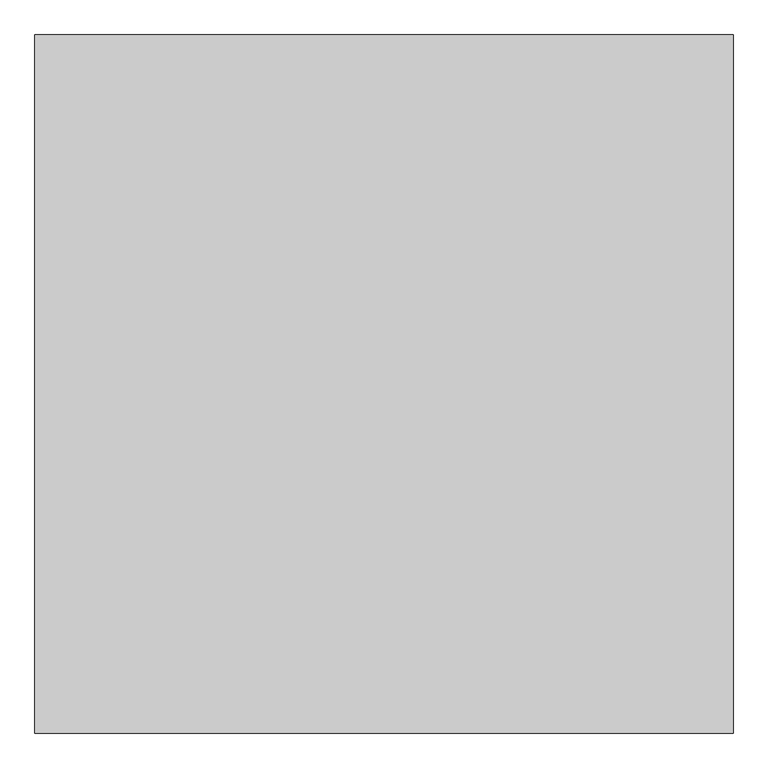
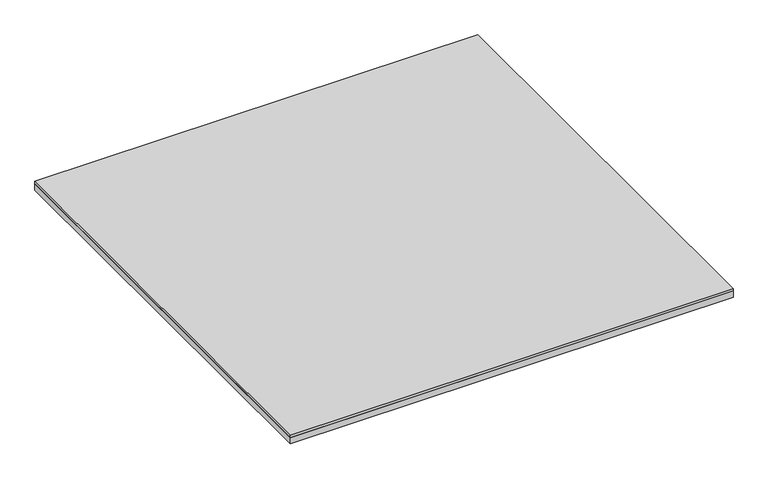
"""IFC4 building model written with IfcOpenShell, lengths in millimetres: proxy geometry, FOUNDATION^PO2_GLASS TACK-PARTS SOLID."""

from ifc_helpers import new_model, si_unit, frame, origin, origin_with_axes, place, context, project, spatial, polyline, outline, extrude, source, transform, mapped, element, save


def generic_models_c7d0343b(model_context):
    return source(origin(), model_context, "Body", "SweptSolid", [
        extrude(outline(polyline([(0.0, 1243.0125), (1243.0125, 1243.0125), (1243.0125, 0.0), (0.0, 0.0), (0.0, 1243.0125)])), frame((0.0, 0.0, 19.05), z_axis=(0.0, 0.0, 1.0), x_axis=(1.0, 0.0, 0.0)), (0.0, 0.0, 1.0), 6.35),
        extrude(outline(polyline([(1243.0125, 1243.0125), (1243.0125, 0.0), (0.0, 0.0), (0.0, 1243.0125), (1243.0125, 1243.0125)])), origin_with_axes(), (0.0, 0.0, 1.0), 19.05),
    ])


if __name__ == "__main__":
    model = new_model("IFC4")
    model_context = context("Model", 3, world=origin())
    ifc_project = project(units=[si_unit("LENGTHUNIT", "METRE", prefix="MILLI")], contexts=[model_context])
    site = spatial("IfcSite", under=ifc_project)
    building = spatial("IfcBuilding", under=site)
    placement = place(None, origin())
    generic_models_shape = generic_models_c7d0343b(model_context)
    element("IfcBuildingElementProxy", 1, Name="FOUNDATION^PO2_GLASS TACK-PARTS SOLID", ObjectType="FOUNDATION^PO2_GLASS TACK-PARTS SOLID", at=placement, inside=building, context=model_context, shape_type="MappedRepresentation", body=[
        mapped(generic_models_shape, transform((0.0, 0.0, 0.0), x_axis=(1.0, 0.0, 0.0), y_axis=(0.0, 1.0, 0.0), z_axis=(0.0, 0.0, 1.0))),
    ])
    save(model, "model.ifc")
